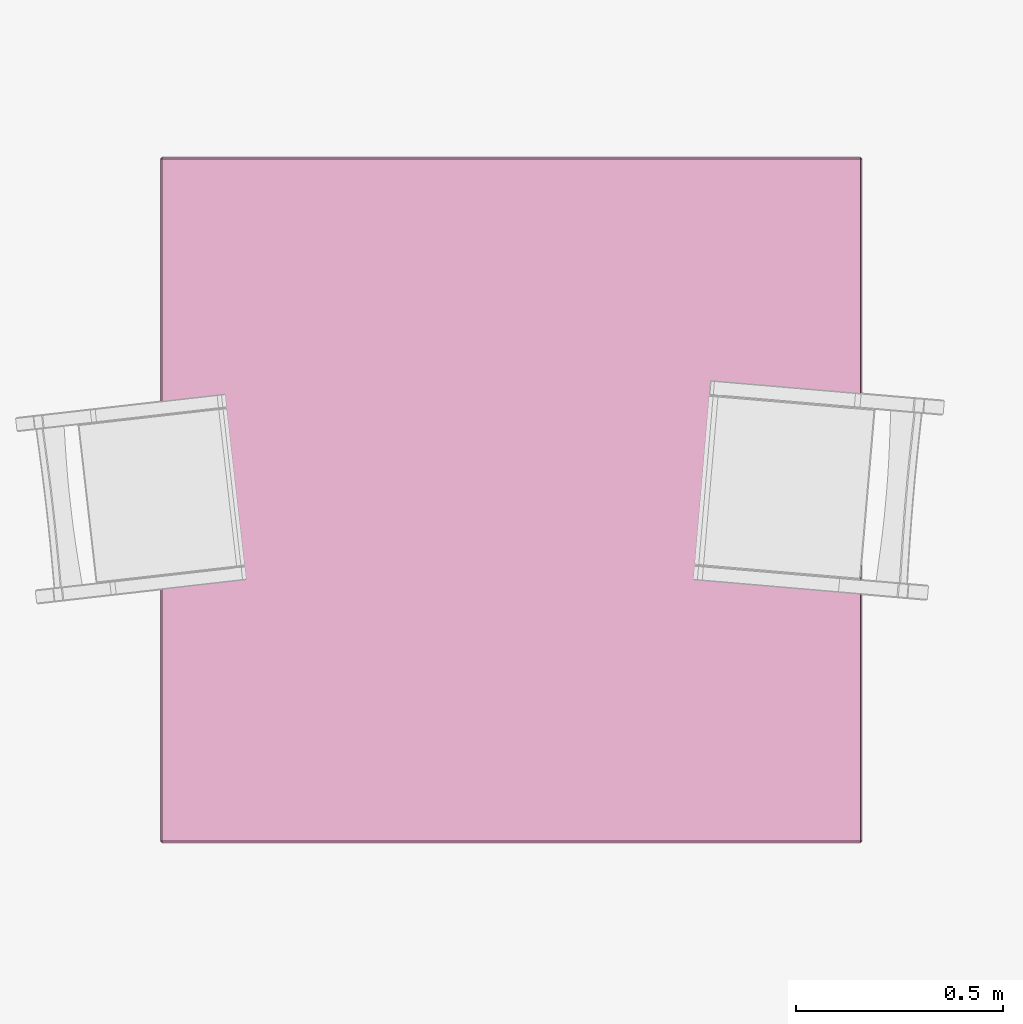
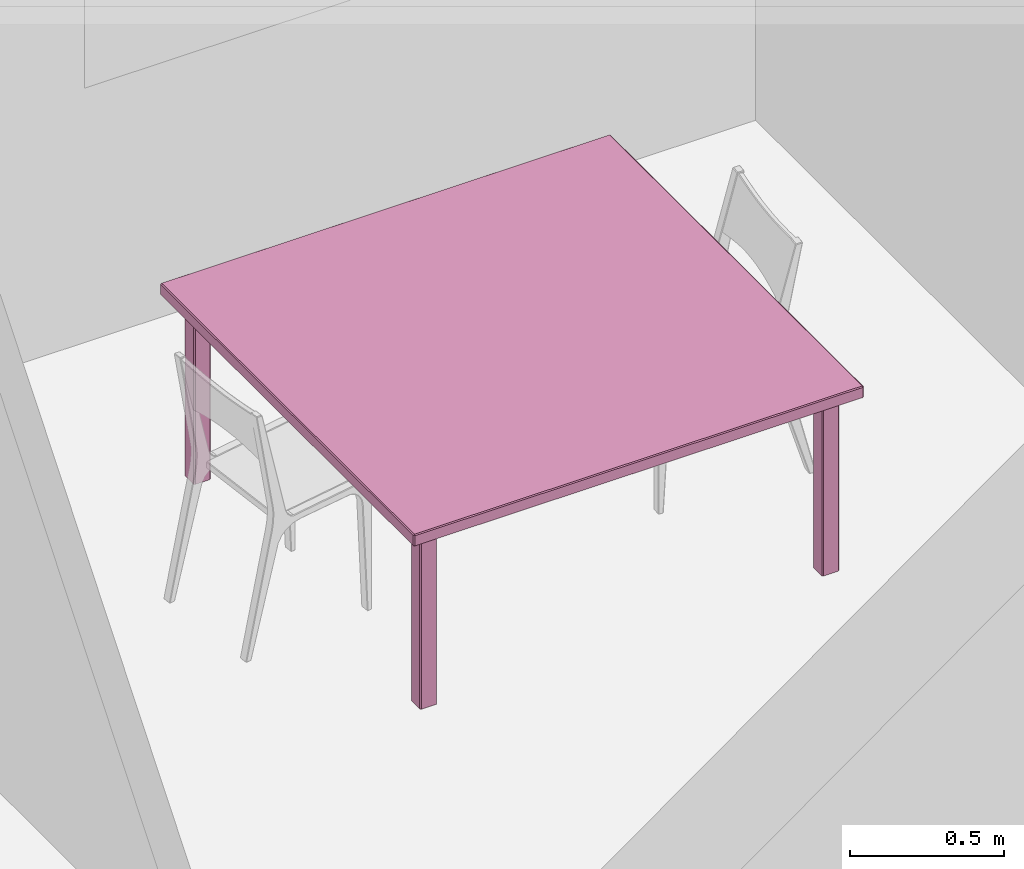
# One storey, part 16 of 26: 1 furniture element.
"""IFC4 building model written with IfcOpenShell, lengths in metres."""

from ifc_helpers import new_model, si_unit, direction, frame, origin_with_axes, place, context, project, spatial, polygons, type_object, element, save


model = new_model("IFC4")

# Units and contexts
model_context = context("Model", 3, precision=1e-05, world=origin_with_axes(), true_north=direction((0.996, -0.093, 0.0)))
ifc_project = project(units=[si_unit("LENGTHUNIT", "METRE"), si_unit("AREAUNIT", "SQUARE_METRE")], contexts=[model_context])

# Site, building, storey, space
site_placement = place(None, origin_with_axes())
site = spatial("IfcSite", under=ifc_project, at=site_placement, Name="Site", CompositionType="ELEMENT")
building_placement = place(site_placement, origin_with_axes())
building = spatial("IfcBuilding", under=site, at=building_placement, Name="Building", CompositionType="ELEMENT")
storey_placement = place(building_placement, frame((0.0, 0.0, 0.0500001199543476), z_axis=(0.0, 0.0, 1.0), x_axis=(1.0, 0.0, 0.0)))
storey = spatial("IfcBuildingStorey", under=building, at=storey_placement, Name="Story 0", CompositionType="ELEMENT", Elevation=0.0500000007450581)
space_placement = place(storey_placement, frame((10.0061410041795, 11.0851828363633, 0.0), z_axis=(0.0, 0.0, 1.0), x_axis=(1.0, 0.0, 0.0)))
space = spatial("IfcSpace", under=storey, at=space_placement, Name="001", CompositionType="ELEMENT")

# Furniture
furniture_type = type_object("IfcFurnitureType", Name="7b78d385-31d2-4775-bee9-45b22ae19e7d", AssemblyPlace="NOTDEFINED", PredefinedType="USERDEFINED")
furniture_placement = place(space_placement, frame((-1.83325224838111, -1.58810775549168, 0.376433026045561), z_axis=(0.0, 0.0, 1.00000005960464), x_axis=(0.0, -0.999999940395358, 0.0)))
element("IfcFurniture", 1, at=furniture_placement, inside=space, type_object=furniture_type, Name="Table", ObjectType="Table", PredefinedType="USERDEFINED", context=model_context, shape_type="Tessellation", body=[
    polygons([(0.823, 0.8466, 0.3328), (-0.823, 0.8466, 0.3328), (0.823, 0.8466, 0.3731), (-0.823, 0.8466, 0.3731), (0.823, 0.8466, 0.3731), (-0.823, 0.8466, 0.3328), (0.7055, -0.7838, 0.3412), (0.7055, -0.7283, 0.3412), (0.7055, -0.7838, -0.3731), (0.7055, -0.7283, -0.3731), (0.7055, -0.7838, -0.3731), (0.7055, -0.7283, 0.3412), (0.7639, -0.7881, 0.3412), (0.7097, -0.7881, 0.3412), (0.7639, -0.7881, -0.3731), (0.7097, -0.7881, -0.3731), (0.7639, -0.7881, -0.3731), (0.7097, -0.7881, 0.3412), (0.768, -0.7283, 0.3412), (0.768, -0.7838, 0.3412), (0.768, -0.7283, -0.3731), (0.768, -0.7838, -0.3731), (0.768, -0.7283, -0.3731), (0.768, -0.7838, 0.3412), (0.7097, -0.7241, 0.3412), (0.7639, -0.7241, 0.3412), (0.7097, -0.7241, -0.3731), (0.7639, -0.7241, -0.3731), (0.7097, -0.7241, -0.3731), (0.7639, -0.7241, 0.3412), (0.7055, 0.7838, 0.3412), (0.7055, 0.7838, -0.3731), (0.7055, 0.7283, 0.3412), (0.7055, 0.7283, -0.3731), (0.7055, 0.7283, 0.3412), (0.7055, 0.7838, -0.3731), (0.7639, 0.7881, 0.3412), (0.7639, 0.7881, -0.3731), (0.7097, 0.7881, 0.3412), (0.7097, 0.7881, -0.3731), (0.7097, 0.7881, 0.3412), (0.7639, 0.7881, -0.3731), (0.768, 0.7283, 0.3412), (0.768, 0.7283, -0.3731), (0.768, 0.7838, 0.3412), (0.768, 0.7838, -0.3731), (0.768, 0.7838, 0.3412), (0.768, 0.7283, -0.3731), (0.7097, 0.7241, 0.3412), (0.7097, 0.7241, -0.3731), (0.7639, 0.7241, 0.3412), (0.7639, 0.7241, -0.3731), (0.7639, 0.7241, 0.3412), (0.7097, 0.7241, -0.3731), (0.8272, 0.8423, 0.3328), (0.8272, 0.8423, 0.3731), (0.8272, -0.8423, 0.3328), (0.8272, -0.8423, 0.3731), (0.8272, -0.8423, 0.3328), (0.8272, 0.8423, 0.3731), (-0.8272, 0.8423, 0.3731), (-0.8272, 0.8423, 0.3328), (-0.8272, -0.8423, 0.3731), (-0.8272, -0.8423, 0.3328), (-0.8272, -0.8423, 0.3731), (-0.8272, 0.8423, 0.3328), (-0.7055, -0.7838, 0.3412), (-0.7055, -0.7838, -0.3731), (-0.7055, -0.7283, 0.3412), (-0.7055, -0.7283, -0.3731), (-0.7055, -0.7283, 0.3412), (-0.7055, -0.7838, -0.3731), (-0.7639, -0.7881, 0.3412), (-0.7639, -0.7881, -0.3731), (-0.7097, -0.7881, 0.3412), (-0.7097, -0.7881, -0.3731), (-0.7097, -0.7881, 0.3412), (-0.7639, -0.7881, -0.3731), (-0.768, -0.7283, 0.3412), (-0.768, -0.7283, -0.3731), (-0.768, -0.7838, 0.3412), (-0.768, -0.7838, -0.3731), (-0.768, -0.7838, 0.3412), (-0.768, -0.7283, -0.3731), (-0.7097, -0.7241, 0.3412), (-0.7097, -0.7241, -0.3731), (-0.7639, -0.7241, 0.3412), (-0.7639, -0.7241, -0.3731), (-0.7639, -0.7241, 0.3412), (-0.7097, -0.7241, -0.3731), (-0.7055, 0.7838, 0.3412), (-0.7055, 0.7283, 0.3412), (-0.7055, 0.7838, -0.3731), (-0.7055, 0.7283, -0.3731), (-0.7055, 0.7838, -0.3731), (-0.7055, 0.7283, 0.3412), (-0.7639, 0.7881, 0.3412), (-0.7097, 0.7881, 0.3412), (-0.7639, 0.7881, -0.3731), (-0.7097, 0.7881, -0.3731), (-0.7639, 0.7881, -0.3731), (-0.7097, 0.7881, 0.3412), (-0.768, 0.7283, 0.3412), (-0.768, 0.7838, 0.3412), (-0.768, 0.7283, -0.3731), (-0.768, 0.7838, -0.3731), (-0.768, 0.7283, -0.3731), (-0.768, 0.7838, 0.3412), (-0.7097, 0.7241, 0.3412), (-0.7639, 0.7241, 0.3412), (-0.7097, 0.7241, -0.3731), (-0.7639, 0.7241, -0.3731), (-0.7097, 0.7241, -0.3731), (-0.7639, 0.7241, 0.3412), (-0.823, 0.8423, 0.3764), (-0.823, -0.8423, 0.3764), (0.823, 0.8423, 0.3764), (0.823, -0.8423, 0.3764), (0.823, 0.8423, 0.3764), (-0.823, -0.8423, 0.3764), (0.823, -0.8466, 0.3328), (0.823, -0.8466, 0.3731), (-0.823, -0.8466, 0.3328), (-0.823, -0.8466, 0.3731), (-0.823, -0.8466, 0.3328), (0.823, -0.8466, 0.3731), (0.823, -0.8423, 0.3294), (-0.823, -0.8423, 0.3294), (0.823, 0.8423, 0.3294), (-0.823, 0.8423, 0.3294), (0.823, 0.8423, 0.3294), (-0.823, -0.8423, 0.3294), (0.7639, -0.7838, 0.3445), (0.7639, -0.7283, 0.3445), (0.7097, -0.7838, 0.3445), (0.7097, -0.7283, 0.3445), (0.7097, -0.7838, 0.3445), (0.7639, -0.7283, 0.3445), (0.7639, -0.7283, -0.3764), (0.7639, -0.7838, -0.3764), (0.7097, -0.7283, -0.3764), (0.7097, -0.7838, -0.3764), (0.7097, -0.7283, -0.3764), (0.7639, -0.7838, -0.3764), (0.7639, 0.7838, -0.3764), (0.7639, 0.7283, -0.3764), (0.7097, 0.7838, -0.3764), (0.7097, 0.7283, -0.3764), (0.7097, 0.7838, -0.3764), (0.7639, 0.7283, -0.3764), (0.7639, 0.7283, 0.3445), (0.7639, 0.7838, 0.3445), (0.7097, 0.7283, 0.3445), (0.7097, 0.7838, 0.3445), (0.7097, 0.7283, 0.3445), (0.7639, 0.7838, 0.3445), (-0.7639, -0.7838, -0.3764), (-0.7639, -0.7283, -0.3764), (-0.7097, -0.7838, -0.3764), (-0.7097, -0.7283, -0.3764), (-0.7097, -0.7838, -0.3764), (-0.7639, -0.7283, -0.3764), (-0.7639, -0.7283, 0.3446), (-0.7639, -0.7838, 0.3446), (-0.7097, -0.7283, 0.3446), (-0.7097, -0.7838, 0.3446), (-0.7097, -0.7283, 0.3446), (-0.7639, -0.7838, 0.3446), (-0.7639, 0.7838, 0.3445), (-0.7639, 0.7283, 0.3445), (-0.7097, 0.7838, 0.3445), (-0.7097, 0.7283, 0.3445), (-0.7097, 0.7838, 0.3445), (-0.7639, 0.7283, 0.3445), (-0.7639, 0.7283, -0.3764), (-0.7639, 0.7838, -0.3764), (-0.7097, 0.7283, -0.3764), (-0.7097, 0.7838, -0.3764), (-0.7097, 0.7283, -0.3764), (-0.7639, 0.7838, -0.3764), (-0.823, 0.8423, 0.3764), (-0.823, 0.8466, 0.3731), (-0.8272, 0.8423, 0.3731), (0.7097, -0.7283, -0.3764), (0.7055, -0.7283, -0.3731), (0.7097, -0.7241, -0.3731), (0.7097, -0.7838, -0.3764), (0.7097, -0.7881, -0.3731), (0.7055, -0.7838, -0.3731), (0.7639, -0.7838, -0.3764), (0.768, -0.7838, -0.3731), (0.7639, -0.7881, -0.3731), (0.7639, -0.7283, -0.3764), (0.7639, -0.7241, -0.3731), (0.768, -0.7283, -0.3731), (0.7097, -0.7283, 0.3445), (0.7097, -0.7241, 0.3412), (0.7055, -0.7283, 0.3412), (0.7097, 0.7241, -0.3731), (0.7055, 0.7283, -0.3731), (0.7097, 0.7283, -0.3764), (0.7097, 0.7838, 0.3445), (0.7097, 0.7881, 0.3412), (0.7055, 0.7838, 0.3412), (0.7639, 0.7838, 0.3445), (0.768, 0.7838, 0.3412), (0.7639, 0.7881, 0.3412), (0.7639, 0.7283, 0.3445), (0.7639, 0.7241, 0.3412), (0.768, 0.7283, 0.3412), (0.823, -0.8466, 0.3731), (0.8272, -0.8423, 0.3731), (0.823, -0.8423, 0.3764), (0.823, 0.8423, 0.3764), (0.8272, 0.8423, 0.3731), (0.823, 0.8466, 0.3731), (-0.823, -0.8466, 0.3328), (-0.8272, -0.8423, 0.3328), (-0.823, -0.8423, 0.3294), (-0.823, 0.8423, 0.3294), (-0.8272, 0.8423, 0.3328), (-0.823, 0.8466, 0.3328), (-0.7097, -0.7241, -0.3731), (-0.7055, -0.7283, -0.3731), (-0.7097, -0.7283, -0.3764), (-0.7097, -0.7838, 0.3446), (-0.7097, -0.7881, 0.3412), (-0.7055, -0.7838, 0.3412), (-0.7639, -0.7838, 0.3446), (-0.768, -0.7838, 0.3412), (-0.7639, -0.7881, 0.3412), (-0.7639, -0.7283, 0.3446), (-0.7639, -0.7241, 0.3412), (-0.768, -0.7283, 0.3412), (-0.7097, 0.7283, -0.3764), (-0.7055, 0.7283, -0.3731), (-0.7097, 0.7241, -0.3731), (-0.7097, 0.7838, -0.3764), (-0.7097, 0.7881, -0.3731), (-0.7055, 0.7838, -0.3731), (-0.7639, 0.7838, -0.3764), (-0.768, 0.7838, -0.3731), (-0.7639, 0.7881, -0.3731), (-0.7639, 0.7283, -0.3764), (-0.7639, 0.7241, -0.3731), (-0.768, 0.7283, -0.3731), (-0.7097, 0.7283, 0.3445), (-0.7097, 0.7241, 0.3412), (-0.7055, 0.7283, 0.3412), (-0.823, -0.8466, 0.3731), (-0.823, -0.8423, 0.3764), (-0.8272, -0.8423, 0.3731), (0.823, -0.8466, 0.3328), (0.823, -0.8423, 0.3294), (0.8272, -0.8423, 0.3328), (0.8272, 0.8423, 0.3328), (0.823, 0.8423, 0.3294), (0.823, 0.8466, 0.3328), (0.7639, -0.7241, 0.3412), (0.7639, -0.7283, 0.3445), (0.768, -0.7283, 0.3412), (0.768, -0.7838, 0.3412), (0.7639, -0.7838, 0.3445), (0.7639, -0.7881, 0.3412), (0.7097, -0.7881, 0.3412), (0.7097, -0.7838, 0.3445), (0.7055, -0.7838, 0.3412), (0.7639, 0.7241, -0.3731), (0.7639, 0.7283, -0.3764), (0.768, 0.7283, -0.3731), (0.768, 0.7838, -0.3731), (0.7639, 0.7838, -0.3764), (0.7639, 0.7881, -0.3731), (0.7097, 0.7881, -0.3731), (0.7097, 0.7838, -0.3764), (0.7055, 0.7838, -0.3731), (0.7097, 0.7241, 0.3412), (0.7097, 0.7283, 0.3445), (0.7055, 0.7283, 0.3412), (-0.7639, -0.7241, -0.3731), (-0.7639, -0.7283, -0.3764), (-0.768, -0.7283, -0.3731), (-0.768, -0.7838, -0.3731), (-0.7639, -0.7838, -0.3764), (-0.7639, -0.7881, -0.3731), (-0.7097, -0.7881, -0.3731), (-0.7097, -0.7838, -0.3764), (-0.7055, -0.7838, -0.3731), (-0.7097, -0.7241, 0.3412), (-0.7097, -0.7283, 0.3446), (-0.7055, -0.7283, 0.3412), (-0.7639, 0.7241, 0.3412), (-0.7639, 0.7283, 0.3445), (-0.768, 0.7283, 0.3412), (-0.768, 0.7838, 0.3412), (-0.7639, 0.7838, 0.3445), (-0.7639, 0.7881, 0.3412), (-0.7097, 0.7881, 0.3412), (-0.7097, 0.7838, 0.3445), (-0.7055, 0.7838, 0.3412), (-0.823, 0.8466, 0.3731), (-0.823, 0.8466, 0.3328), (-0.8272, 0.8423, 0.3731), (-0.8272, 0.8423, 0.3328), (-0.8272, 0.8423, 0.3731), (-0.823, 0.8466, 0.3328), (-0.823, 0.8466, 0.3328), (0.823, 0.8466, 0.3328), (-0.823, 0.8423, 0.3294), (0.823, 0.8423, 0.3294), (-0.823, 0.8423, 0.3294), (0.823, 0.8466, 0.3328), (0.823, 0.8466, 0.3328), (0.823, 0.8466, 0.3731), (0.8272, 0.8423, 0.3328), (0.8272, 0.8423, 0.3731), (0.8272, 0.8423, 0.3328), (0.823, 0.8466, 0.3731), (0.823, 0.8466, 0.3731), (-0.823, 0.8466, 0.3731), (0.823, 0.8423, 0.3764), (-0.823, 0.8423, 0.3764), (0.823, 0.8423, 0.3764), (-0.823, 0.8466, 0.3731), (0.7055, -0.7283, -0.3731), (0.7055, -0.7283, 0.3412), (0.7097, -0.7241, -0.3731), (0.7097, -0.7241, 0.3412), (0.7097, -0.7241, -0.3731), (0.7055, -0.7283, 0.3412), (0.7055, -0.7283, 0.3412), (0.7055, -0.7838, 0.3412), (0.7097, -0.7283, 0.3445), (0.7097, -0.7838, 0.3445), (0.7097, -0.7283, 0.3445), (0.7055, -0.7838, 0.3412), (0.7055, -0.7838, 0.3412), (0.7055, -0.7838, -0.3731), (0.7097, -0.7881, 0.3412), (0.7097, -0.7881, -0.3731), (0.7097, -0.7881, 0.3412), (0.7055, -0.7838, -0.3731), (0.7055, -0.7838, -0.3731), (0.7055, -0.7283, -0.3731), (0.7097, -0.7838, -0.3764), (0.7097, -0.7283, -0.3764), (0.7097, -0.7838, -0.3764), (0.7055, -0.7283, -0.3731), (0.7097, -0.7881, 0.3412), (0.7639, -0.7881, 0.3412), (0.7097, -0.7838, 0.3445), (0.7639, -0.7838, 0.3445), (0.7097, -0.7838, 0.3445), (0.7639, -0.7881, 0.3412), (0.7639, -0.7881, 0.3412), (0.7639, -0.7881, -0.3731), (0.768, -0.7838, 0.3412), (0.768, -0.7838, -0.3731), (0.768, -0.7838, 0.3412), (0.7639, -0.7881, -0.3731), (0.7639, -0.7881, -0.3731), (0.7097, -0.7881, -0.3731), (0.7639, -0.7838, -0.3764), (0.7097, -0.7838, -0.3764), (0.7639, -0.7838, -0.3764), (0.7097, -0.7881, -0.3731), (0.768, -0.7838, 0.3412), (0.768, -0.7283, 0.3412), (0.7639, -0.7838, 0.3445), (0.7639, -0.7283, 0.3445), (0.7639, -0.7838, 0.3445), (0.768, -0.7283, 0.3412), (0.768, -0.7283, 0.3412), (0.768, -0.7283, -0.3731), (0.7639, -0.7241, 0.3412), (0.7639, -0.7241, -0.3731), (0.7639, -0.7241, 0.3412), (0.768, -0.7283, -0.3731), (0.768, -0.7283, -0.3731), (0.768, -0.7838, -0.3731), (0.7639, -0.7283, -0.3764), (0.7639, -0.7838, -0.3764), (0.7639, -0.7283, -0.3764), (0.768, -0.7838, -0.3731), (0.7639, -0.7241, 0.3412), (0.7097, -0.7241, 0.3412), (0.7639, -0.7283, 0.3445), (0.7097, -0.7283, 0.3445), (0.7639, -0.7283, 0.3445), (0.7097, -0.7241, 0.3412), (0.7097, -0.7241, -0.3731), (0.7639, -0.7241, -0.3731), (0.7097, -0.7283, -0.3764), (0.7639, -0.7283, -0.3764), (0.7097, -0.7283, -0.3764), (0.7639, -0.7241, -0.3731), (0.7055, 0.7283, -0.3731), (0.7055, 0.7838, -0.3731), (0.7097, 0.7283, -0.3764), (0.7097, 0.7838, -0.3764), (0.7097, 0.7283, -0.3764), (0.7055, 0.7838, -0.3731), (0.7055, 0.7838, -0.3731), (0.7055, 0.7838, 0.3412), (0.7097, 0.7881, -0.3731), (0.7097, 0.7881, 0.3412), (0.7097, 0.7881, -0.3731), (0.7055, 0.7838, 0.3412), (0.7055, 0.7838, 0.3412), (0.7055, 0.7283, 0.3412), (0.7097, 0.7838, 0.3445), (0.7097, 0.7283, 0.3445), (0.7097, 0.7838, 0.3445), (0.7055, 0.7283, 0.3412), (0.7055, 0.7283, 0.3412), (0.7055, 0.7283, -0.3731), (0.7097, 0.7241, 0.3412), (0.7097, 0.7241, -0.3731), (0.7097, 0.7241, 0.3412), (0.7055, 0.7283, -0.3731), (0.7097, 0.7881, -0.3731), (0.7639, 0.7881, -0.3731), (0.7097, 0.7838, -0.3764), (0.7639, 0.7838, -0.3764), (0.7097, 0.7838, -0.3764), (0.7639, 0.7881, -0.3731), (0.7639, 0.7881, -0.3731), (0.7639, 0.7881, 0.3412), (0.768, 0.7838, -0.3731), (0.768, 0.7838, 0.3412), (0.768, 0.7838, -0.3731), (0.7639, 0.7881, 0.3412), (0.7639, 0.7881, 0.3412), (0.7097, 0.7881, 0.3412), (0.7639, 0.7838, 0.3445), (0.7097, 0.7838, 0.3445), (0.7639, 0.7838, 0.3445), (0.7097, 0.7881, 0.3412), (0.768, 0.7838, -0.3731), (0.768, 0.7283, -0.3731), (0.7639, 0.7838, -0.3764), (0.7639, 0.7283, -0.3764), (0.7639, 0.7838, -0.3764), (0.768, 0.7283, -0.3731), (0.768, 0.7283, -0.3731), (0.768, 0.7283, 0.3412), (0.7639, 0.7241, -0.3731), (0.7639, 0.7241, 0.3412), (0.7639, 0.7241, -0.3731), (0.768, 0.7283, 0.3412), (0.768, 0.7283, 0.3412), (0.768, 0.7838, 0.3412), (0.7639, 0.7283, 0.3445), (0.7639, 0.7838, 0.3445), (0.7639, 0.7283, 0.3445), (0.768, 0.7838, 0.3412), (0.7639, 0.7241, -0.3731), (0.7097, 0.7241, -0.3731), (0.7639, 0.7283, -0.3764), (0.7097, 0.7283, -0.3764), (0.7639, 0.7283, -0.3764), (0.7097, 0.7241, -0.3731), (0.7097, 0.7241, 0.3412), (0.7639, 0.7241, 0.3412), (0.7097, 0.7283, 0.3445), (0.7639, 0.7283, 0.3445), (0.7097, 0.7283, 0.3445), (0.7639, 0.7241, 0.3412), (0.8272, -0.8423, 0.3731), (0.8272, 0.8423, 0.3731), (0.823, -0.8423, 0.3764), (0.823, 0.8423, 0.3764), (0.823, -0.8423, 0.3764), (0.8272, 0.8423, 0.3731), (0.8272, 0.8423, 0.3328), (0.8272, -0.8423, 0.3328), (0.823, 0.8423, 0.3294), (0.823, -0.8423, 0.3294), (0.823, 0.8423, 0.3294), (0.8272, -0.8423, 0.3328), (0.8272, -0.8423, 0.3328), (0.8272, -0.8423, 0.3731), (0.823, -0.8466, 0.3328), (0.823, -0.8466, 0.3731), (0.823, -0.8466, 0.3328), (0.8272, -0.8423, 0.3731), (-0.8272, -0.8423, 0.3328), (-0.8272, 0.8423, 0.3328), (-0.823, -0.8423, 0.3294), (-0.823, 0.8423, 0.3294), (-0.823, -0.8423, 0.3294), (-0.8272, 0.8423, 0.3328), (-0.8272, 0.8423, 0.3731), (-0.8272, -0.8423, 0.3731), (-0.823, 0.8423, 0.3764), (-0.823, -0.8423, 0.3764), (-0.823, 0.8423, 0.3764), (-0.8272, -0.8423, 0.3731), (-0.8272, -0.8423, 0.3731), (-0.8272, -0.8423, 0.3328), (-0.823, -0.8466, 0.3731), (-0.823, -0.8466, 0.3328), (-0.823, -0.8466, 0.3731), (-0.8272, -0.8423, 0.3328), (-0.7055, -0.7283, -0.3731), (-0.7055, -0.7838, -0.3731), (-0.7097, -0.7283, -0.3764), (-0.7097, -0.7838, -0.3764), (-0.7097, -0.7283, -0.3764), (-0.7055, -0.7838, -0.3731), (-0.7055, -0.7838, -0.3731), (-0.7055, -0.7838, 0.3412), (-0.7097, -0.7881, -0.3731), (-0.7097, -0.7881, 0.3412), (-0.7097, -0.7881, -0.3731), (-0.7055, -0.7838, 0.3412), (-0.7055, -0.7838, 0.3412), (-0.7055, -0.7283, 0.3412), (-0.7097, -0.7838, 0.3446), (-0.7097, -0.7283, 0.3446), (-0.7097, -0.7838, 0.3446), (-0.7055, -0.7283, 0.3412), (-0.7055, -0.7283, 0.3412), (-0.7055, -0.7283, -0.3731), (-0.7097, -0.7241, 0.3412), (-0.7097, -0.7241, -0.3731), (-0.7097, -0.7241, 0.3412), (-0.7055, -0.7283, -0.3731), (-0.7097, -0.7881, -0.3731), (-0.7639, -0.7881, -0.3731), (-0.7097, -0.7838, -0.3764), (-0.7639, -0.7838, -0.3764), (-0.7097, -0.7838, -0.3764), (-0.7639, -0.7881, -0.3731), (-0.7639, -0.7881, -0.3731), (-0.7639, -0.7881, 0.3412), (-0.768, -0.7838, -0.3731), (-0.768, -0.7838, 0.3412), (-0.768, -0.7838, -0.3731), (-0.7639, -0.7881, 0.3412), (-0.7639, -0.7881, 0.3412), (-0.7097, -0.7881, 0.3412), (-0.7639, -0.7838, 0.3446), (-0.7097, -0.7838, 0.3446), (-0.7639, -0.7838, 0.3446), (-0.7097, -0.7881, 0.3412), (-0.768, -0.7838, -0.3731), (-0.768, -0.7283, -0.3731), (-0.7639, -0.7838, -0.3764), (-0.7639, -0.7283, -0.3764), (-0.7639, -0.7838, -0.3764), (-0.768, -0.7283, -0.3731), (-0.768, -0.7283, -0.3731), (-0.768, -0.7283, 0.3412), (-0.7639, -0.7241, -0.3731), (-0.7639, -0.7241, 0.3412), (-0.7639, -0.7241, -0.3731), (-0.768, -0.7283, 0.3412), (-0.768, -0.7283, 0.3412), (-0.768, -0.7838, 0.3412), (-0.7639, -0.7283, 0.3446), (-0.7639, -0.7838, 0.3446), (-0.7639, -0.7283, 0.3446), (-0.768, -0.7838, 0.3412), (-0.7639, -0.7241, -0.3731), (-0.7097, -0.7241, -0.3731), (-0.7639, -0.7283, -0.3764), (-0.7097, -0.7283, -0.3764), (-0.7639, -0.7283, -0.3764), (-0.7097, -0.7241, -0.3731), (-0.7097, -0.7241, 0.3412), (-0.7639, -0.7241, 0.3412), (-0.7097, -0.7283, 0.3446), (-0.7639, -0.7283, 0.3446), (-0.7097, -0.7283, 0.3446), (-0.7639, -0.7241, 0.3412), (-0.7055, 0.7283, -0.3731), (-0.7055, 0.7283, 0.3412), (-0.7097, 0.7241, -0.3731), (-0.7097, 0.7241, 0.3412), (-0.7097, 0.7241, -0.3731), (-0.7055, 0.7283, 0.3412), (-0.7055, 0.7283, 0.3412), (-0.7055, 0.7838, 0.3412), (-0.7097, 0.7283, 0.3445), (-0.7097, 0.7838, 0.3445), (-0.7097, 0.7283, 0.3445), (-0.7055, 0.7838, 0.3412), (-0.7055, 0.7838, 0.3412), (-0.7055, 0.7838, -0.3731), (-0.7097, 0.7881, 0.3412), (-0.7097, 0.7881, -0.3731), (-0.7097, 0.7881, 0.3412), (-0.7055, 0.7838, -0.3731), (-0.7055, 0.7838, -0.3731), (-0.7055, 0.7283, -0.3731), (-0.7097, 0.7838, -0.3764), (-0.7097, 0.7283, -0.3764), (-0.7097, 0.7838, -0.3764), (-0.7055, 0.7283, -0.3731), (-0.7097, 0.7881, 0.3412), (-0.7639, 0.7881, 0.3412), (-0.7097, 0.7838, 0.3445), (-0.7639, 0.7838, 0.3445), (-0.7097, 0.7838, 0.3445), (-0.7639, 0.7881, 0.3412), (-0.7639, 0.7881, 0.3412), (-0.7639, 0.7881, -0.3731), (-0.768, 0.7838, 0.3412), (-0.768, 0.7838, -0.3731), (-0.768, 0.7838, 0.3412), (-0.7639, 0.7881, -0.3731), (-0.7639, 0.7881, -0.3731), (-0.7097, 0.7881, -0.3731), (-0.7639, 0.7838, -0.3764), (-0.7097, 0.7838, -0.3764), (-0.7639, 0.7838, -0.3764), (-0.7097, 0.7881, -0.3731), (-0.768, 0.7838, 0.3412), (-0.768, 0.7283, 0.3412), (-0.7639, 0.7838, 0.3445), (-0.7639, 0.7283, 0.3445), (-0.7639, 0.7838, 0.3445), (-0.768, 0.7283, 0.3412), (-0.768, 0.7283, 0.3412), (-0.768, 0.7283, -0.3731), (-0.7639, 0.7241, 0.3412), (-0.7639, 0.7241, -0.3731), (-0.7639, 0.7241, 0.3412), (-0.768, 0.7283, -0.3731), (-0.768, 0.7283, -0.3731), (-0.768, 0.7838, -0.3731), (-0.7639, 0.7283, -0.3764), (-0.7639, 0.7838, -0.3764), (-0.7639, 0.7283, -0.3764), (-0.768, 0.7838, -0.3731), (-0.7639, 0.7241, 0.3412), (-0.7097, 0.7241, 0.3412), (-0.7639, 0.7283, 0.3445), (-0.7097, 0.7283, 0.3445), (-0.7639, 0.7283, 0.3445), (-0.7097, 0.7241, 0.3412), (-0.7097, 0.7241, -0.3731), (-0.7639, 0.7241, -0.3731), (-0.7097, 0.7283, -0.3764), (-0.7639, 0.7283, -0.3764), (-0.7097, 0.7283, -0.3764), (-0.7639, 0.7241, -0.3731), (0.823, -0.8423, 0.3764), (-0.823, -0.8423, 0.3764), (0.823, -0.8466, 0.3731), (-0.823, -0.8466, 0.3731), (0.823, -0.8466, 0.3731), (-0.823, -0.8423, 0.3764), (0.823, -0.8466, 0.3328), (-0.823, -0.8466, 0.3328), (0.823, -0.8423, 0.3294), (-0.823, -0.8423, 0.3294), (0.823, -0.8423, 0.3294), (-0.823, -0.8466, 0.3328)], [[[1, 2, 3]], [[4, 5, 6]], [[7, 8, 9]], [[10, 11, 12]], [[13, 14, 15]], [[16, 17, 18]], [[19, 20, 21]], [[22, 23, 24]], [[25, 26, 27]], [[28, 29, 30]], [[31, 32, 33]], [[34, 35, 36]], [[37, 38, 39]], [[40, 41, 42]], [[43, 44, 45]], [[46, 47, 48]], [[49, 50, 51]], [[52, 53, 54]], [[55, 56, 57]], [[58, 59, 60]], [[61, 62, 63]], [[64, 65, 66]], [[67, 68, 69]], [[70, 71, 72]], [[73, 74, 75]], [[76, 77, 78]], [[79, 80, 81]], [[82, 83, 84]], [[85, 86, 87]], [[88, 89, 90]], [[91, 92, 93]], [[94, 95, 96]], [[97, 98, 99]], [[100, 101, 102]], [[103, 104, 105]], [[106, 107, 108]], [[109, 110, 111]], [[112, 113, 114]], [[115, 116, 117]], [[118, 119, 120]], [[121, 122, 123]], [[124, 125, 126]], [[127, 128, 129]], [[130, 131, 132]], [[133, 134, 135]], [[136, 137, 138]], [[139, 140, 141]], [[142, 143, 144]], [[145, 146, 147]], [[148, 149, 150]], [[151, 152, 153]], [[154, 155, 156]], [[157, 158, 159]], [[160, 161, 162]], [[163, 164, 165]], [[166, 167, 168]], [[169, 170, 171]], [[172, 173, 174]], [[175, 176, 177]], [[178, 179, 180]], [[181, 182, 183]], [[184, 185, 186]], [[187, 188, 189]], [[190, 191, 192]], [[193, 194, 195]], [[196, 197, 198]], [[199, 200, 201]], [[202, 203, 204]], [[205, 206, 207]], [[208, 209, 210]], [[211, 212, 213]], [[214, 215, 216]], [[217, 218, 219]], [[220, 221, 222]], [[223, 224, 225]], [[226, 227, 228]], [[229, 230, 231]], [[232, 233, 234]], [[235, 236, 237]], [[238, 239, 240]], [[241, 242, 243]], [[244, 245, 246]], [[247, 248, 249]], [[250, 251, 252]], [[253, 254, 255]], [[256, 257, 258]], [[259, 260, 261]], [[262, 263, 264]], [[265, 266, 267]], [[268, 269, 270]], [[271, 272, 273]], [[274, 275, 276]], [[277, 278, 279]], [[280, 281, 282]], [[283, 284, 285]], [[286, 287, 288]], [[289, 290, 291]], [[292, 293, 294]], [[295, 296, 297]], [[298, 299, 300]], [[301, 302, 303]], [[304, 305, 306]], [[307, 308, 309]], [[310, 311, 312]], [[313, 314, 315]], [[316, 317, 318]], [[319, 320, 321]], [[322, 323, 324]], [[325, 326, 327]], [[328, 329, 330]], [[331, 332, 333]], [[334, 335, 336]], [[337, 338, 339]], [[340, 341, 342]], [[343, 344, 345]], [[346, 347, 348]], [[349, 350, 351]], [[352, 353, 354]], [[355, 356, 357]], [[358, 359, 360]], [[361, 362, 363]], [[364, 365, 366]], [[367, 368, 369]], [[370, 371, 372]], [[373, 374, 375]], [[376, 377, 378]], [[379, 380, 381]], [[382, 383, 384]], [[385, 386, 387]], [[388, 389, 390]], [[391, 392, 393]], [[394, 395, 396]], [[397, 398, 399]], [[400, 401, 402]], [[403, 404, 405]], [[406, 407, 408]], [[409, 410, 411]], [[412, 413, 414]], [[415, 416, 417]], [[418, 419, 420]], [[421, 422, 423]], [[424, 425, 426]], [[427, 428, 429]], [[430, 431, 432]], [[433, 434, 435]], [[436, 437, 438]], [[439, 440, 441]], [[442, 443, 444]], [[445, 446, 447]], [[448, 449, 450]], [[451, 452, 453]], [[454, 455, 456]], [[457, 458, 459]], [[460, 461, 462]], [[463, 464, 465]], [[466, 467, 468]], [[469, 470, 471]], [[472, 473, 474]], [[475, 476, 477]], [[478, 479, 480]], [[481, 482, 483]], [[484, 485, 486]], [[487, 488, 489]], [[490, 491, 492]], [[493, 494, 495]], [[496, 497, 498]], [[499, 500, 501]], [[502, 503, 504]], [[505, 506, 507]], [[508, 509, 510]], [[511, 512, 513]], [[514, 515, 516]], [[517, 518, 519]], [[520, 521, 522]], [[523, 524, 525]], [[526, 527, 528]], [[529, 530, 531]], [[532, 533, 534]], [[535, 536, 537]], [[538, 539, 540]], [[541, 542, 543]], [[544, 545, 546]], [[547, 548, 549]], [[550, 551, 552]], [[553, 554, 555]], [[556, 557, 558]], [[559, 560, 561]], [[562, 563, 564]], [[565, 566, 567]], [[568, 569, 570]], [[571, 572, 573]], [[574, 575, 576]], [[577, 578, 579]], [[580, 581, 582]], [[583, 584, 585]], [[586, 587, 588]], [[589, 590, 591]], [[592, 593, 594]], [[595, 596, 597]], [[598, 599, 600]], [[601, 602, 603]], [[604, 605, 606]], [[607, 608, 609]], [[610, 611, 612]], [[613, 614, 615]], [[616, 617, 618]], [[619, 620, 621]], [[622, 623, 624]], [[625, 626, 627]], [[628, 629, 630]], [[631, 632, 633]], [[634, 635, 636]], [[637, 638, 639]], [[640, 641, 642]], [[643, 644, 645]], [[646, 647, 648]], [[649, 650, 651]], [[652, 653, 654]], [[655, 656, 657]], [[658, 659, 660]]]),
])

save(model, "model.ifc")
